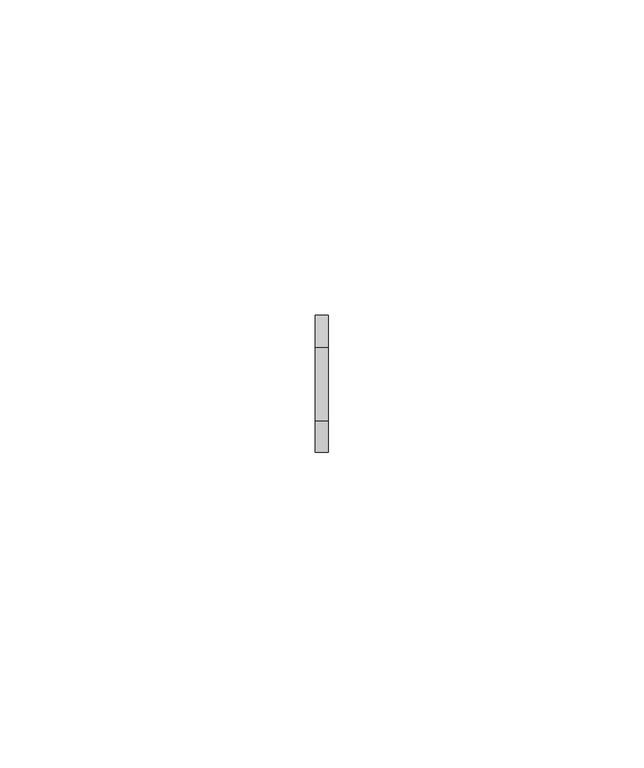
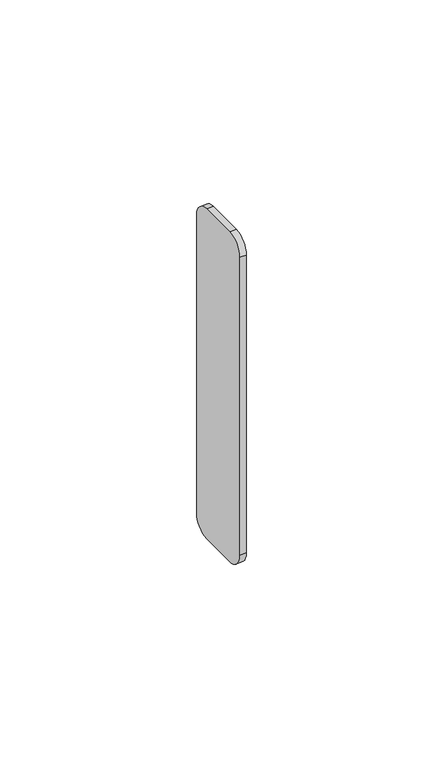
"""IFC4 building model written with IfcOpenShell, lengths in millimetres: proxy geometry, Odbojniki - OPW63 : Odbojniki - OPW63."""

from ifc_helpers import new_model, si_unit, point, frame, frame_2d, origin, place, context, project, spatial, polyline, circle_curve, trimmed, segment, composite_curve, outline, extrude, source, transform, mapped, element, save


def generic_models_7e4038cf(model_context):
    return source(origin(), model_context, "Body", "SweptSolid", [
        extrude(outline(composite_curve([segment(trimmed(circle_curve(frame_2d((-5.0, 65.7697777)), 5.0), [point((-10.0, 65.7697777))], [point((-5.0, 70.7697777))], False, "CARTESIAN"), True, "CONTINUOUS"), segment(polyline([(-5.0, 70.7697777), (6.7000015, 70.7697777)]), True, "CONTINUOUS"), segment(trimmed(circle_curve(frame_2d((6.7000015, 65.7697777)), 5.0), [point((6.7000015, 70.7697777))], [point((11.7000015, 65.7697777))], False, "CARTESIAN"), True, "CONTINUOUS"), segment(polyline([(11.7000015, 65.7697777), (11.7000015, -26.5923048)]), True, "CONTINUOUS"), segment(trimmed(circle_curve(frame_2d((6.7000015, -26.5923048)), 5.0), [point((11.7000015, -26.5923048))], [point((6.7000015, -31.5923048))], False, "CARTESIAN"), True, "CONTINUOUS"), segment(polyline([(6.7000015, -31.5923048), (-5.0, -31.5923048)]), True, "CONTINUOUS"), segment(trimmed(circle_curve(frame_2d((-5.0, -26.5923048)), 5.0), [point((-5.0, -31.5923048))], [point((-10.0, -26.5923048))], False, "CARTESIAN"), True, "CONTINUOUS"), segment(polyline([(-10.0, -26.5923048), (-10.0, 65.7697777)]), True, "CONTINUOUS")], self_intersect=False)), frame((-3.0, 0.0, 0.0), z_axis=(1.0, 0.0, 0.0), x_axis=(0.0, 1.0, 0.0)), (0.0, 0.0, 1.0), 2.0),
    ])


if __name__ == "__main__":
    model = new_model("IFC4")
    model_context = context("Model", 3, world=origin())
    ifc_project = project(units=[si_unit("LENGTHUNIT", "METRE", prefix="MILLI")], contexts=[model_context])
    site = spatial("IfcSite", under=ifc_project)
    building = spatial("IfcBuilding", under=site)
    placement = place(None, origin())
    generic_models_shape = generic_models_7e4038cf(model_context)
    element("IfcBuildingElementProxy", 1, Name="Odbojniki - OPW63 : Odbojniki - OPW63", ObjectType="Odbojniki - OPW63 : Odbojniki - OPW63", at=placement, inside=building, context=model_context, shape_type="MappedRepresentation", body=[
        mapped(generic_models_shape, transform((0.0, 0.0, 0.0), x_axis=(1.0, 0.0, 0.0), y_axis=(0.0, 1.0, 0.0), z_axis=(0.0, 0.0, 1.0))),
    ])
    save(model, "model.ifc")
